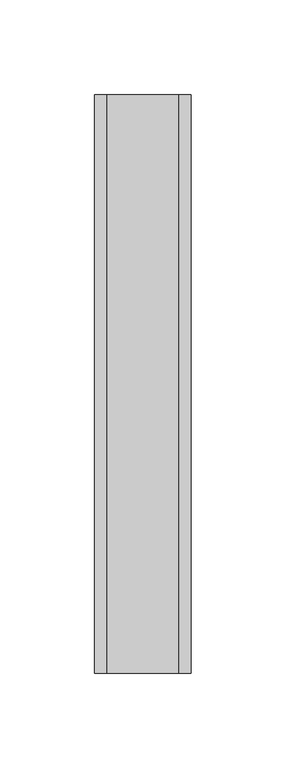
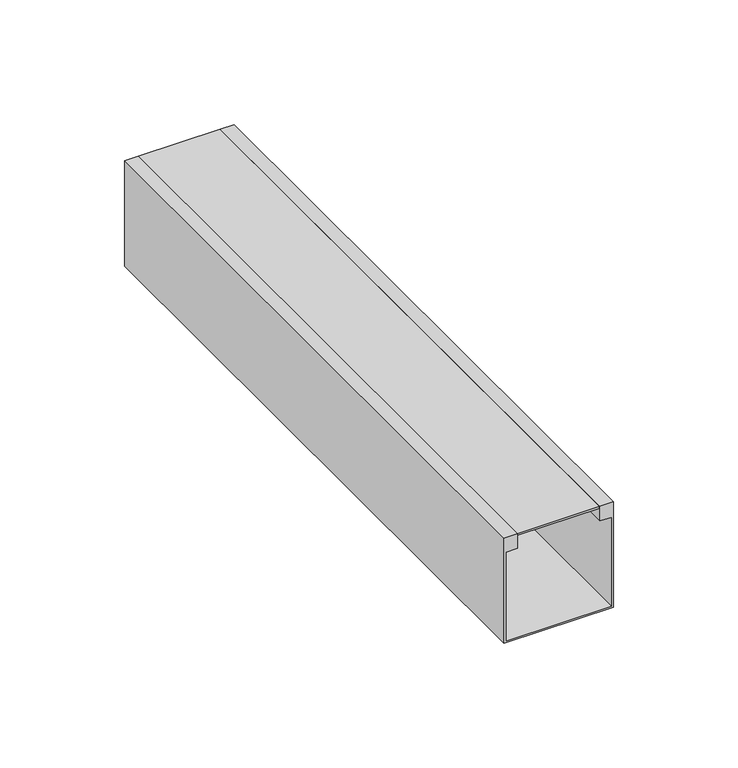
"""IFC4 building model written with IfcOpenShell, lengths in millimetres: light fixture geometry."""

from ifc_helpers import new_model, si_unit, frame, origin, place, context, project, spatial, polyline, outline, extrude, source, transform, mapped, element, save


def light_fixture_8d965ad9(model_context):
    return source(origin(), model_context, "Body", "SweptSolid", [
        extrude(outline(polyline([(0.0, -19.05), (0.0, -25.4), (-51.6466667, -25.4), (-51.6466667, 25.4), (0.0, 25.4), (0.0, 19.05), (-7.2084585, 19.05), (-7.2084585, 24.5533333), (-50.8, 24.5533333), (-50.8, -24.5533333), (-7.2084585, -24.5533333), (-7.2084585, -19.05), (0.0, -19.05)])), frame((0.0, -152.4, 0.0), z_axis=(0.0, 1.0, 0.0), x_axis=(0.0, 0.0, 1.0)), (0.0, 0.0, 1.0), 304.8),
        extrude(outline(polyline([(19.05, -152.4), (-19.05, -152.4), (-19.05, 152.4), (19.05, 152.4), (19.05, -152.4)])), frame((0.0, 0.0, -0.8466667), z_axis=(0.0, 0.0, 1.0), x_axis=(1.0, 0.0, 0.0)), (0.0, 0.0, 1.0), 0.8466667),
    ])


if __name__ == "__main__":
    model = new_model("IFC4")
    model_context = context("Model", 3, world=origin())
    ifc_project = project(units=[si_unit("LENGTHUNIT", "METRE", prefix="MILLI")], contexts=[model_context])
    site = spatial("IfcSite", under=ifc_project)
    building = spatial("IfcBuilding", under=site)
    placement = place(None, origin())
    light_fixture_shape = light_fixture_8d965ad9(model_context)
    element("IfcLightFixture", 1, ObjectType="Honda Light Strip : 12\" x 2\" x 2\" (L13)", at=placement, inside=building, context=model_context, shape_type="MappedRepresentation", body=[
        mapped(light_fixture_shape, transform((0.0, 0.0, 0.0), x_axis=(1.0, 0.0, 0.0), y_axis=(0.0, 1.0, 0.0), z_axis=(0.0, 0.0, 1.0))),
    ])
    save(model, "model.ifc")
